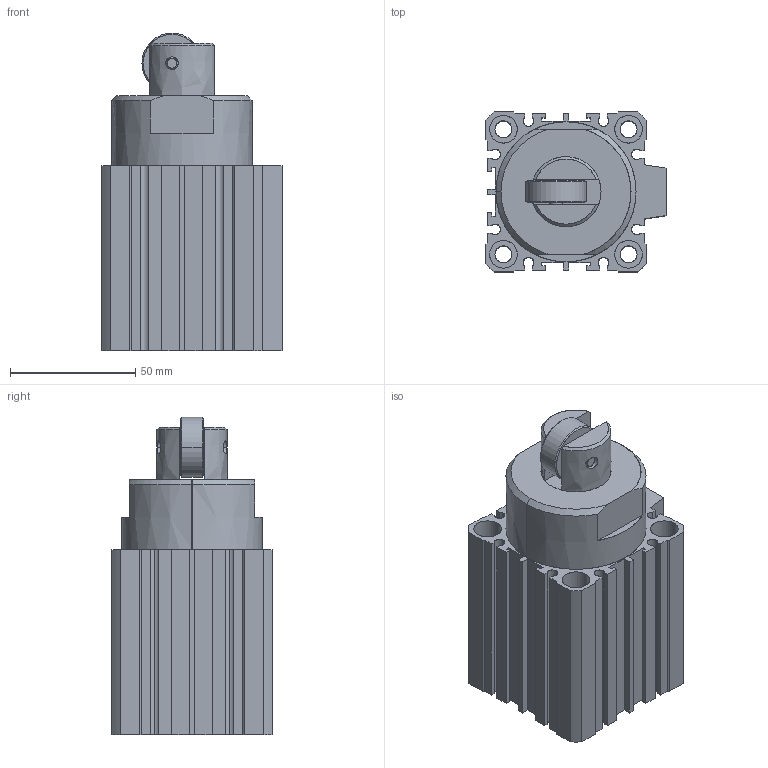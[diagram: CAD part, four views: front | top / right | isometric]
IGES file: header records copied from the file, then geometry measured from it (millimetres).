
Start section: SolidWorks IGES file using analytic representation for surfaces
Global section: file name: C:\Documents and Settings\admin\Bureau\stage de yaya\Plan Philippe Pince\PINCE\VUSB\pièces en 3D\VUSB STEP\ELOC-3DWG\ELOC-50-25-TIGE ENTREE.IGS; native system: SolidWorks 2007; preprocessor: SolidWorks 2007; author: admin; date: 080331.090907; units: millimetre
Bounding box: 72 x 64 x 127 mm (x, y, z)
Surface area: 70558.3 mm2 (no closed solid volume)
Topology: 0 solids, 0 shells, 890 faces, 11088 edges, 11128 vertices
Faces by surface type: bspline 809, revolution 81
